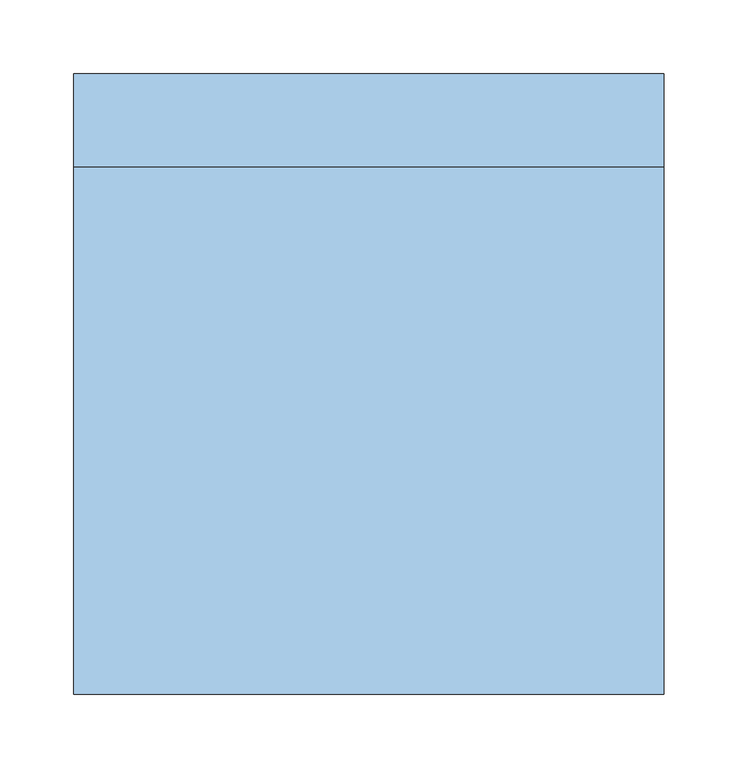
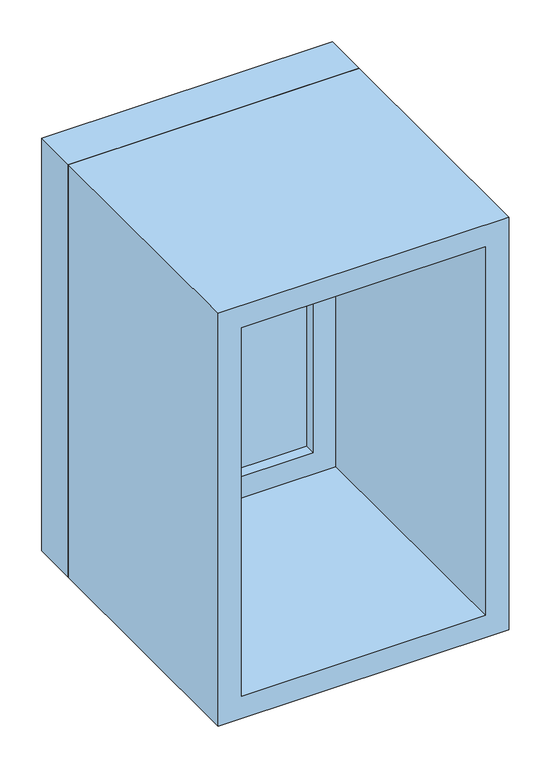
"""IFC4 building model written with IfcOpenShell, lengths in millimetres: window geometry, M_Неподвижный : 0406 x 0610 мм."""

from ifc_helpers import new_model, si_unit, frame, origin, place, context, project, spatial, polyline, outline, extrude, source, transform, mapped, element, save


def window_4ecab917(model_context):
    return source(origin(), model_context, "Body", "SweptSolid", [
        extrude(outline(polyline([(-137.0, 188.0), (137.0, 188.0), (137.0, 176.0), (-137.0, 176.0), (-137.0, 188.0)])), frame((0.0, 0.0, 978.0), z_axis=(0.0, 0.0, 1.0), x_axis=(1.0, 0.0, 0.0)), (0.0, 0.0, 1.0), 474.0),
        extrude(outline(polyline([(1496.0, -181.0), (934.0, -181.0), (934.0, 181.0), (1496.0, 181.0), (1496.0, -181.0)]), holes=[polyline([(1452.0, -137.0), (1452.0, 137.0), (978.0, 137.0), (978.0, -137.0), (1452.0, -137.0)])]), frame((0.0, 160.0, 0.0), z_axis=(0.0, 1.0, 0.0), x_axis=(0.0, 0.0, 1.0)), (0.0, 0.0, 1.0), 44.0),
        extrude(outline(polyline([(1515.0, -200.0), (915.0, -200.0), (915.0, 200.0), (1515.0, 200.0), (1515.0, -200.0)]), holes=[polyline([(1496.0, -181.0), (1496.0, 181.0), (934.0, 181.0), (934.0, -181.0), (1496.0, -181.0)])]), frame((0.0, 160.0, 0.0), z_axis=(0.0, 1.0, 0.0), x_axis=(0.0, 0.0, 1.0)), (0.0, 0.0, 1.0), 63.0),
        extrude(outline(polyline([(1515.0, -200.0), (915.0, -200.0), (915.0, 200.0), (1515.0, 200.0), (1515.0, -200.0)]), holes=[polyline([(1483.0, -168.0), (1483.0, 168.0), (947.0, 168.0), (947.0, -168.0), (1483.0, -168.0)])]), frame((0.0, -197.0, 0.0), z_axis=(0.0, 1.0, 0.0), x_axis=(0.0, 0.0, 1.0)), (0.0, 0.0, 1.0), 357.0),
    ])


if __name__ == "__main__":
    model = new_model("IFC4")
    model_context = context("Model", 3, world=origin())
    ifc_project = project(units=[si_unit("LENGTHUNIT", "METRE", prefix="MILLI")], contexts=[model_context])
    site = spatial("IfcSite", under=ifc_project)
    building = spatial("IfcBuilding", under=site)
    placement = place(None, origin())
    window_shape = window_4ecab917(model_context)
    element("IfcWindow", 1, ObjectType="M_Неподвижный : 0406 x 0610 мм", at=placement, inside=building, context=model_context, shape_type="MappedRepresentation", body=[
        mapped(window_shape, transform((0.0, 0.0, 0.0), x_axis=(1.0, 0.0, 0.0), y_axis=(0.0, 1.0, 0.0), z_axis=(0.0, 0.0, 1.0))),
    ])
    save(model, "model.ifc")
